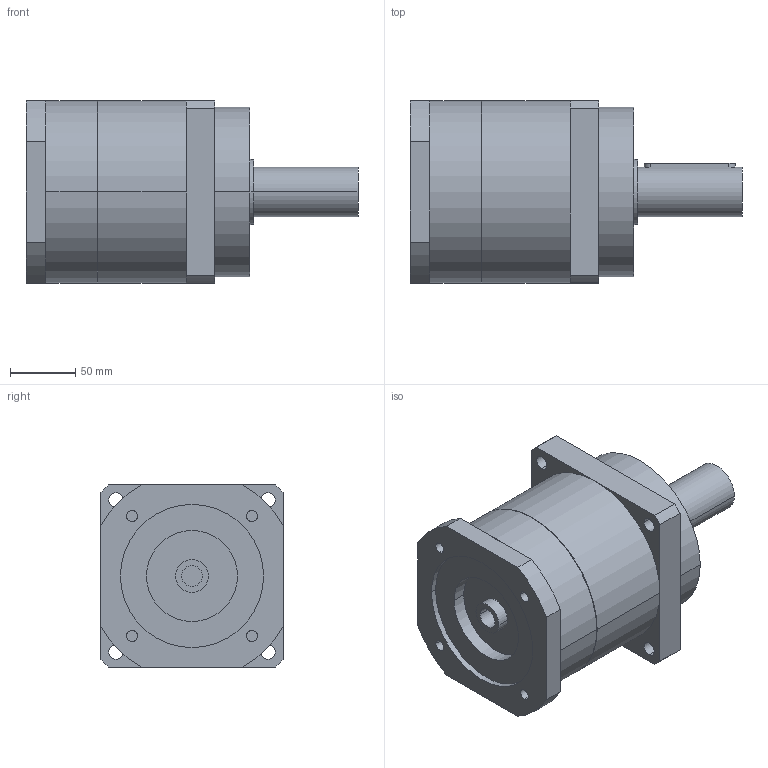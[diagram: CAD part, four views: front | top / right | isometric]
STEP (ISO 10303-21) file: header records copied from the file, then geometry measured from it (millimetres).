
FILE_DESCRIPTION(('CoCreate Modeling STEP Export'),'2;1');
FILE_NAME('GPR150_ig-3-4-5-7_38_B5_16_P04.stp','2014-08-19T16:41:49',(''),(''),'CoCreate Modeling STEP processor for AP214 (Solid Model)','CoCreate Modeling 16.00C 25-Feb-2009 (C) Parametric Technology GmbH','');
FILE_SCHEMA(('AUTOMOTIVE_DESIGN { 1 0 10303 214 1 1 1 1 }'));
Length unit declared in the file: millimetre
Products named in the file (2): GPR150_ig-3-4-5-7_38_B5_16_P04
Assembly tree (1 placements, depth 2):
  GPR150_ig-3-4-5-7_38_B5_16_P04
    GPR150_ig-3-4-5-7_38_B5_16_P04
Bounding box: 255 x 140 x 140 mm (x, y, z)
Volume: 2716824.7 mm3; surface area: 145145 mm2
Topology: 1 solids, 1 shells, 94 faces, 257 edges, 173 vertices
Faces by surface type: cylinder 54, plane 34, cone 6
Entity records: 2633 total; most frequent: ORIENTED_EDGE 510, CARTESIAN_POINT 478, DIRECTION 372, EDGE_CURVE 255, VERTEX_POINT 173, AXIS2_PLACEMENT_3D 139, EDGE_LOOP 120, VECTOR 94
